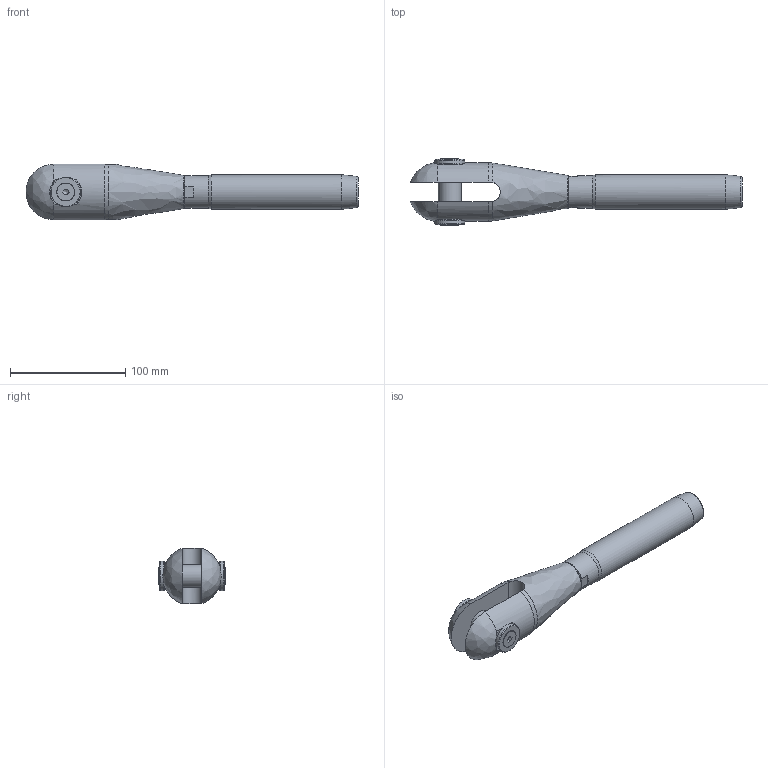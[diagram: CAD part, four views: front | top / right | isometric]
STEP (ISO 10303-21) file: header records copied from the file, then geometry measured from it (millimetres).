
FILE_DESCRIPTION(/* description */ (''),/* implementation_level */ '2;1');
FILE_NAME(/* name */ 'MAC-R 14_S355',/* time_stamp */ '2023-05-23T17:52:46+02:00',/* author */ (''),/* organization */ (''),/* preprocessor_version */ 'ST-DEVELOPER v16.5',/* originating_system */ 'Rhino 7.22',/* authorisation */ '');
FILE_SCHEMA (('CONFIG_CONTROL_DESIGN'));
Length unit declared in the file: millimetre
Products named in the file (1): Document
Bounding box: 288.53 x 57.78 x 48.18 mm (x, y, z)
Volume: 267975.8 mm3; surface area: 57118.2 mm2
Topology: 7 solids, 7 shells, 89 faces, 250 edges, 173 vertices
Faces by surface type: plane 37, bspline 28, cylinder 24
Full cylindrical faces by diameter (mm): 6.647 x2, 8 x2, 8.5 x2, 15.24 x2, 20 x1, 21 x2, 23.752 x1, 26 x2, 27 x1, 28.6 x1, 30 x1
Entity records: 3525 total; most frequent: CARTESIAN_POINT 1942, ORIENTED_EDGE 490, EDGE_CURVE 245, VERTEX_POINT 173, EDGE_LOOP 100, B_SPLINE_CURVE_WITH_KNOTS 99, ADVANCED_FACE 89, FACE_OUTER_BOUND 89
